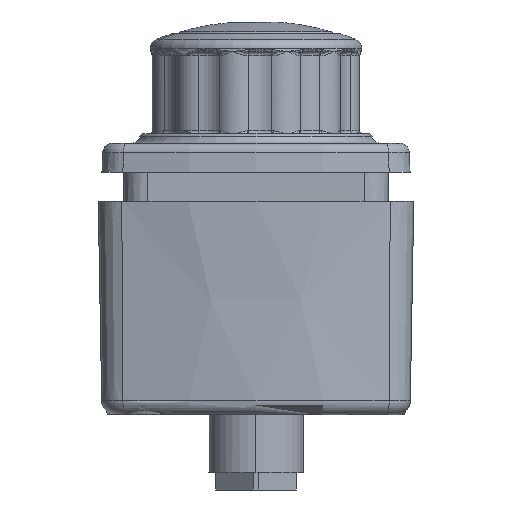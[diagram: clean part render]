
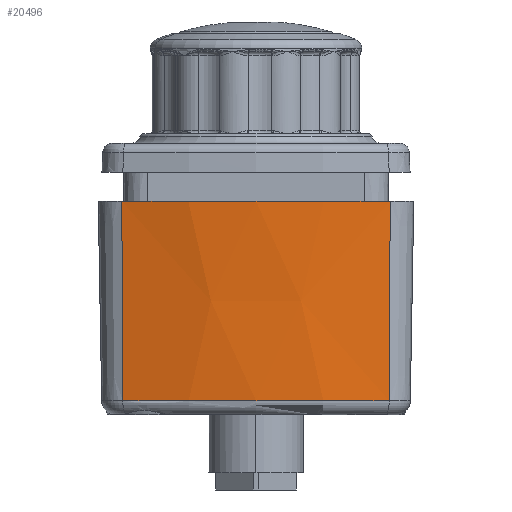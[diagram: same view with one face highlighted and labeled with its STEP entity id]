
A CAD part, left-side view. The second image highlights one B-rep face of the part: STEP entity #20496.
In plain terms, the highlighted conical face has half-angle 1 degrees and reference radius 50 mm.
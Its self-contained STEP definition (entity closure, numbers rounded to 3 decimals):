
#563 = VERTEX_POINT ( 'NONE', #16878 ) ;
#661 = EDGE_CURVE ( 'NONE', #28370, #1252, #17864, .T. ) ;
#1252 = VERTEX_POINT ( 'NONE', #22687 ) ;
#2686 = AXIS2_PLACEMENT_3D ( 'NONE', #15752, #10828, #47366 ) ;
#3893 = CIRCLE ( 'NONE', #41777, 50.026 ) ;
#4050 = CARTESIAN_POINT ( 'NONE',  ( -45.422, 19.2, -13.937 ) ) ;
#5019 = CARTESIAN_POINT ( 'NONE',  ( -45.049, -3., -13.83 ) ) ;
#7419 = EDGE_CURVE ( 'NONE', #563, #37304, #37307, .T. ) ;
#7890 = CONICAL_SURFACE ( 'NONE', #36586, 50., 0.017 ) ;
#9305 = EDGE_CURVE ( 'NONE', #1252, #37304, #3893, .T. ) ;
#10828 = DIRECTION ( 'NONE',  ( 0., 1., 0. ) ) ;
#12977 = CIRCLE ( 'NONE', #2686, 50.388 ) ;
#14143 = ORIENTED_EDGE ( 'NONE', *, *, #7419, .F. ) ;
#15752 = CARTESIAN_POINT ( 'NONE',  ( 3., 19.2, 0. ) ) ;
#16755 = CARTESIAN_POINT ( 'NONE',  ( 3., -3., 0. ) ) ;
#16878 = CARTESIAN_POINT ( 'NONE',  ( -45.422, 19.2, 13.937 ) ) ;
#17864 = LINE ( 'NONE', #5019, #45374 ) ;
#18240 = VECTOR ( 'NONE', #49699, 1000. ) ;
#19035 = ORIENTED_EDGE ( 'NONE', *, *, #661, .T. ) ;
#20496 = ADVANCED_FACE ( 'NONE', ( #33337 ), #7890, .T. ) ;
#20692 = DIRECTION ( 'NONE',  ( 0., 0., 1. ) ) ;
#22687 = CARTESIAN_POINT ( 'NONE',  ( -45.074, -1.526, -13.837 ) ) ;
#23000 = DIRECTION ( 'NONE',  ( 0.017, -1., 0.005 ) ) ;
#28370 = VERTEX_POINT ( 'NONE', #4050 ) ;
#33337 = FACE_OUTER_BOUND ( 'NONE', #45821, .T. ) ;
#34359 = DIRECTION ( 'NONE',  ( 0., 0., -1. ) ) ;
#36586 = AXIS2_PLACEMENT_3D ( 'NONE', #16755, #56869, #34359 ) ;
#37304 = VERTEX_POINT ( 'NONE', #45579 ) ;
#37307 = LINE ( 'NONE', #45117, #18240 ) ;
#41777 = AXIS2_PLACEMENT_3D ( 'NONE', #57193, #42784, #20692 ) ;
#42784 = DIRECTION ( 'NONE',  ( 0., 1., 0. ) ) ;
#43156 = EDGE_CURVE ( 'NONE', #28370, #563, #12977, .T. ) ;
#45117 = CARTESIAN_POINT ( 'NONE',  ( -45.049, -3., 13.83 ) ) ;
#45374 = VECTOR ( 'NONE', #23000, 1000. ) ;
#45579 = CARTESIAN_POINT ( 'NONE',  ( -45.074, -1.526, 13.837 ) ) ;
#45821 = EDGE_LOOP ( 'NONE', ( #19035, #51288, #14143, #54220 ) ) ;
#47366 = DIRECTION ( 'NONE',  ( 0., 0., 1. ) ) ;
#49699 = DIRECTION ( 'NONE',  ( 0.017, -1., -0.005 ) ) ;
#51288 = ORIENTED_EDGE ( 'NONE', *, *, #9305, .T. ) ;
#54220 = ORIENTED_EDGE ( 'NONE', *, *, #43156, .F. ) ;
#56869 = DIRECTION ( 'NONE',  ( 0., 1., 0. ) ) ;
#57193 = CARTESIAN_POINT ( 'NONE',  ( 3., -1.526, 0. ) ) ;
